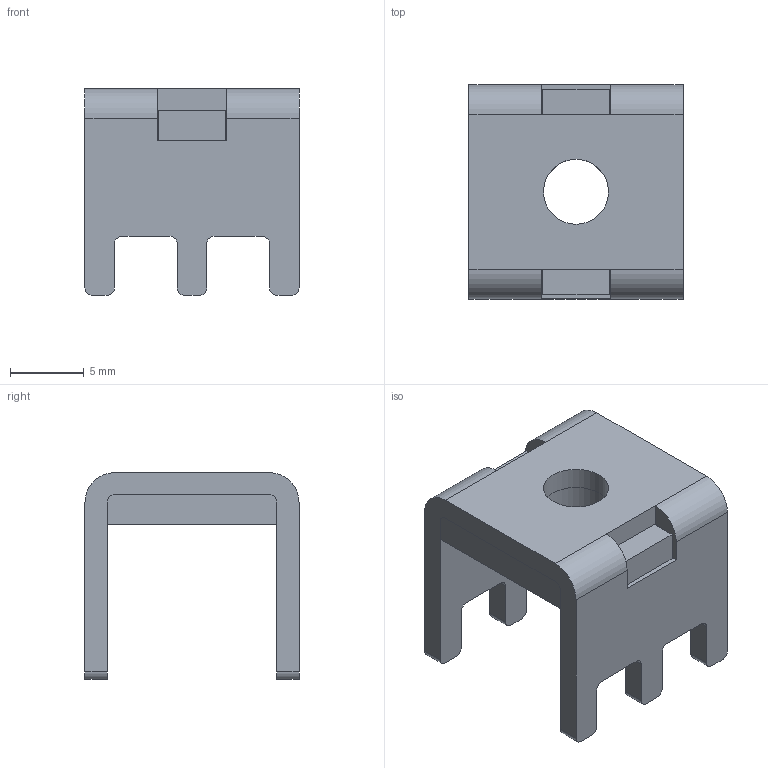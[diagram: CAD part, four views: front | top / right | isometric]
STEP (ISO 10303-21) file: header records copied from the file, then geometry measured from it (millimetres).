
FILE_DESCRIPTION(/* description */ (''),/* implementation_level */ '2;1');
FILE_NAME(/* name */ '14.5x14.5料厚1.5铁板高10mm 脚长4.0mm.stp',/* time_stamp */ '2025-06-26T18:53:05+08:00',/* author */ (''),/* organization */ (''),/* preprocessor_version */ 'ST-DEVELOPER v16',/* originating_system */ 'SIEMENS PLM Software NX 10.0',/* authorisation */ '');
FILE_SCHEMA (('AP203_CONFIGURATION_CONTROLLED_3D_DESIGN_OF_MECHANICAL_PARTS_AND_ASSEMBLIES_MIM_LF { 1 0 10303 403 2 1 2}'));
Length unit declared in the file: millimetre
Products named in the file (1): Admi2ABC7C88fx1p
Bounding box: 14.5 x 14.5 x 14 mm (x, y, z)
Volume: 985.4 mm3; surface area: 1614.1 mm2
Topology: 2 solids, 2 shells, 82 faces, 239 edges, 157 vertices
Faces by surface type: plane 48, cylinder 34
Full cylindrical faces by diameter (mm): 4.4 x2
Entity records: 2802 total; most frequent: CARTESIAN_POINT 475, ORIENTED_EDGE 472, DIRECTION 470, EDGE_CURVE 236, LINE 168, VECTOR 168, VERTEX_POINT 156, AXIS2_PLACEMENT_3D 151
